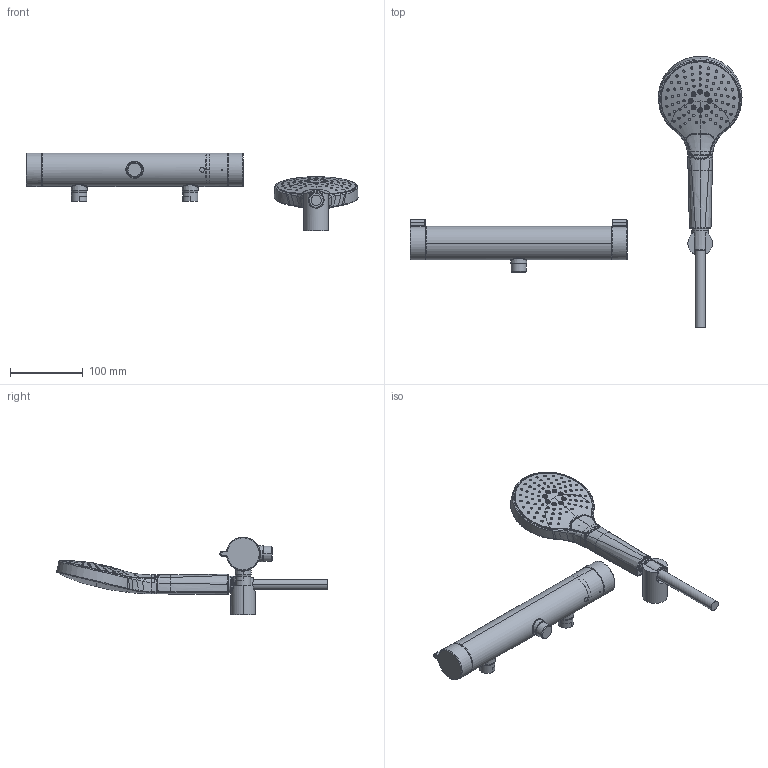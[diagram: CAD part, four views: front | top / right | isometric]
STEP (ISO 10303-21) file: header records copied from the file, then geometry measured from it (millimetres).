
FILE_DESCRIPTION((''),'2;1');
FILE_NAME('26_009_503_XXX_ASM','2025-06-05T16:32:00',('LF994'),(''),'CREO PARAMETRIC BY PTC INC, 2024133','CREO PARAMETRIC BY PTC INC, 2024133','');
FILE_SCHEMA(('CONFIG_CONTROL_DESIGN'));
Length unit declared in the file: millimetre
Products named in the file (14): 122540_1; 538385_3_1; 538385_3_2; 538385_3_ASM; 506120_2_1; SCNI1_2; 26009503_ASM_6_ASM; 26009110_SW0001_2_1_AF0_1_1; 26009110_SW0001_2_2_1_1; 26009110_SW0001_2_3_1_1; 26009110_SW0001_2_AF0_ASM_1_1_ASM; 26_009_100_XXX-26_009_300_XXX_1_ASM; D30056467_ASM; 26_009_503_XXX_ASM
Assembly tree (13 placements, depth 5):
  26_009_503_XXX_ASM
    26009503_ASM_6_ASM
      122540_1
      538385_3_ASM
        538385_3_1
        538385_3_2
      506120_2_1
      SCNI1_2
    D30056467_ASM
      26_009_100_XXX-26_009_300_XXX_1_ASM
        26009110_SW0001_2_AF0_ASM_1_1_ASM
          26009110_SW0001_2_1_AF0_1_1
          26009110_SW0001_2_2_1_1
          26009110_SW0001_2_3_1_1
Bounding box: 457.13 x 373.35 x 107.1 mm (x, y, z)
Volume: 337058.8 mm3; surface area: 188216 mm2
Topology: 8 solids, 9 shells, 1748 faces, 4611 edges, 2923 vertices
Faces by surface type: bspline 809, cone 287, cylinder 283, plane 190, torus 134, extrusion 39, sphere 4, revolution 2
Entity records: 117082 total; most frequent: CARTESIAN_POINT 81609, ORIENTED_EDGE 9206, EDGE_CURVE 4603, DIRECTION 4322, B_SPLINE_CURVE_WITH_KNOTS 3040, VERTEX_POINT 2923, EDGE_LOOP 1968, FACE_OUTER_BOUND 1748
